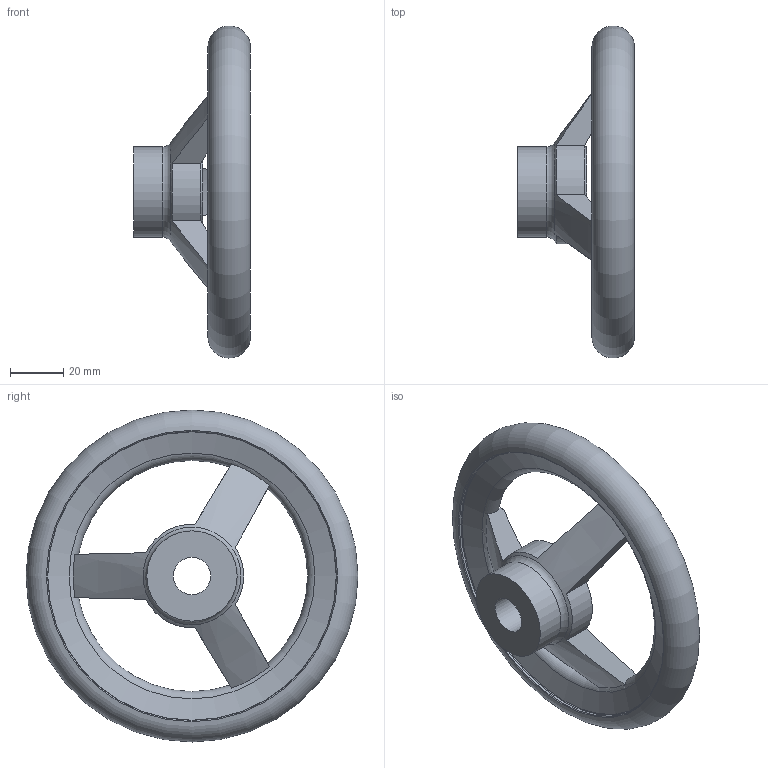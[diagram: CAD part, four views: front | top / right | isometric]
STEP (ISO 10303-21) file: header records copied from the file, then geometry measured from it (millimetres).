
FILE_DESCRIPTION( ( 'STEP AP203' ), '1' );
FILE_NAME( 'C:/Temp/Ganter_Step_05_03_2020/data/1_3/gn_950_1/gn_950_1_b/gn_950_1_b_a/Handwheel GN 950.1-GG-125-B14-A.stp', '2020-03-05T10:32:31', ( 'License CC BY-ND 4.0' ), ( 'CADENAS' ), ' ', 'PARTsolutions', ' ' );
FILE_SCHEMA( ( 'CONFIG_CONTROL_DESIGN' ) );
Length unit declared in the file: millimetre
Products named in the file (1): _Handwheel GN 950.1-GG-125-B14-A
Bounding box: 43.99 x 124.99 x 124.99 mm (x, y, z)
Volume: 102308 mm3; surface area: 28339.7 mm2
Topology: 1 solids, 1 shells, 31 faces, 82 edges, 50 vertices
Faces by surface type: torus 11, plane 8, cylinder 8, cone 4
Full cylindrical faces by diameter (mm): 14 x1, 34 x2, 109 x2
Entity records: 1110 total; most frequent: CARTESIAN_POINT 384, DIRECTION 136, ORIENTED_EDGE 126, AXIS2_PLACEMENT_3D 65, EDGE_CURVE 63, EDGE_LOOP 53, VERTEX_POINT 49, FACE_OUTER_BOUND 44
